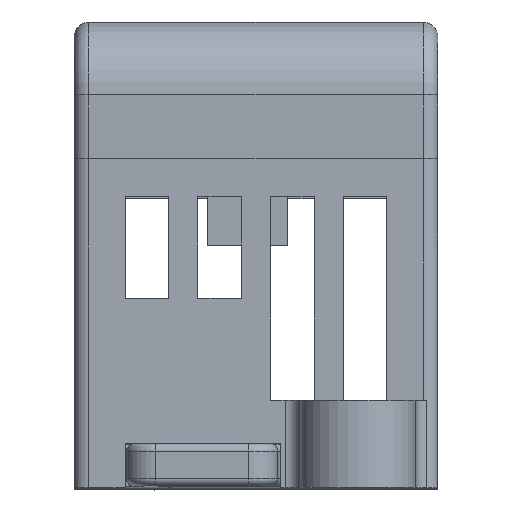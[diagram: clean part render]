
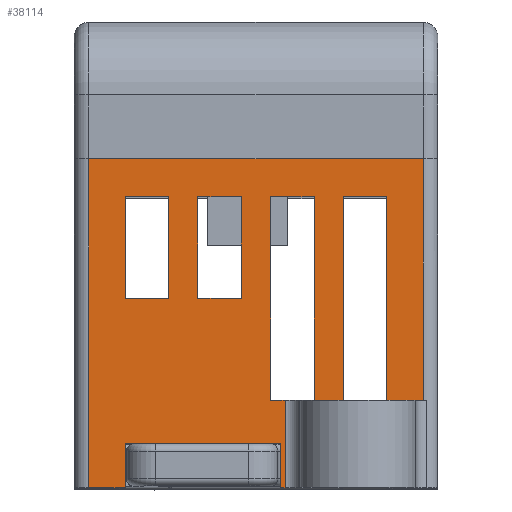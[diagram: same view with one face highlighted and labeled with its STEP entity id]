
A CAD part, top view. The second image highlights one B-rep face of the part: STEP entity #38114.
In plain terms, the highlighted planar face has unit normal (0, 0, 1).
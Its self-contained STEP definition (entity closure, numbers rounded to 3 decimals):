
#29633=DIRECTION('',(1.,0.,0.));
#29634=VECTOR('',#29633,2.5);
#29635=CARTESIAN_POINT('',(-11.5,0.,45.));
#29636=LINE('',#29635,#29634);
#29822=DIRECTION('',(0.,-1.,0.));
#29823=VECTOR('',#29822,14.);
#29824=CARTESIAN_POINT('',(1.,20.,45.));
#29825=LINE('',#29824,#29823);
#29829=DIRECTION('',(1.,0.,0.));
#29830=VECTOR('',#29829,1.);
#29831=CARTESIAN_POINT('',(1.,6.,45.));
#29832=LINE('',#29831,#29830);
#29836=DIRECTION('',(0.,-1.,0.));
#29837=VECTOR('',#29836,6.);
#29838=CARTESIAN_POINT('',(2.,6.,45.));
#29839=LINE('',#29838,#29837);
#29843=DIRECTION('',(-1.,0.,0.));
#29844=VECTOR('',#29843,0.3);
#29845=CARTESIAN_POINT('',(2.,0.,45.));
#29846=LINE('',#29845,#29844);
#29850=DIRECTION('',(1.,0.,0.));
#29851=VECTOR('',#29850,10.7);
#29852=CARTESIAN_POINT('',(-9.,3.,45.));
#29853=LINE('',#29852,#29851);
#29857=DIRECTION('',(0.,1.,0.));
#29858=VECTOR('',#29857,3.);
#29859=CARTESIAN_POINT('',(-9.,0.,45.));
#29860=LINE('',#29859,#29858);
#29864=DIRECTION('',(1.,0.,0.));
#29865=VECTOR('',#29864,23.);
#29866=CARTESIAN_POINT('',(-11.5,22.6,45.));
#29867=LINE('',#29866,#29865);
#29871=DIRECTION('',(0.,1.,0.));
#29872=VECTOR('',#29871,14.);
#29873=CARTESIAN_POINT('',(9.,6.,45.));
#29874=LINE('',#29873,#29872);
#29878=DIRECTION('',(-1.,0.,0.));
#29879=VECTOR('',#29878,3.);
#29880=CARTESIAN_POINT('',(9.,20.,45.));
#29881=LINE('',#29880,#29879);
#29885=DIRECTION('',(0.,-1.,0.));
#29886=VECTOR('',#29885,14.);
#29887=CARTESIAN_POINT('',(6.,20.,45.));
#29888=LINE('',#29887,#29886);
#29892=DIRECTION('',(0.,1.,0.));
#29893=VECTOR('',#29892,14.);
#29894=CARTESIAN_POINT('',(4.,6.,45.));
#29895=LINE('',#29894,#29893);
#29899=DIRECTION('',(-1.,0.,0.));
#29900=VECTOR('',#29899,3.);
#29901=CARTESIAN_POINT('',(4.,20.,45.));
#29902=LINE('',#29901,#29900);
#29906=DIRECTION('',(-1.,0.,0.));
#29907=VECTOR('',#29906,3.);
#29908=CARTESIAN_POINT('',(-1.,20.,45.));
#29909=LINE('',#29908,#29907);
#29913=DIRECTION('',(0.,-1.,0.));
#29914=VECTOR('',#29913,7.);
#29915=CARTESIAN_POINT('',(-4.,20.,45.));
#29916=LINE('',#29915,#29914);
#29920=DIRECTION('',(1.,0.,0.));
#29921=VECTOR('',#29920,3.);
#29922=CARTESIAN_POINT('',(-4.,13.,45.));
#29923=LINE('',#29922,#29921);
#29927=DIRECTION('',(0.,1.,0.));
#29928=VECTOR('',#29927,7.);
#29929=CARTESIAN_POINT('',(-1.,13.,45.));
#29930=LINE('',#29929,#29928);
#29934=DIRECTION('',(-1.,0.,0.));
#29935=VECTOR('',#29934,3.);
#29936=CARTESIAN_POINT('',(-6.,20.,45.));
#29937=LINE('',#29936,#29935);
#29941=DIRECTION('',(0.,-1.,0.));
#29942=VECTOR('',#29941,7.);
#29943=CARTESIAN_POINT('',(-9.,20.,45.));
#29944=LINE('',#29943,#29942);
#29948=DIRECTION('',(1.,0.,0.));
#29949=VECTOR('',#29948,3.);
#29950=CARTESIAN_POINT('',(-9.,13.,45.));
#29951=LINE('',#29950,#29949);
#29955=DIRECTION('',(0.,1.,0.));
#29956=VECTOR('',#29955,7.);
#29957=CARTESIAN_POINT('',(-6.,13.,45.));
#29958=LINE('',#29957,#29956);
#30079=DIRECTION('',(1.,0.,0.));
#30080=VECTOR('',#30079,2.);
#30081=CARTESIAN_POINT('',(4.,6.,45.));
#30082=LINE('',#30081,#30080);
#30093=DIRECTION('',(1.,0.,0.));
#30094=VECTOR('',#30093,2.5);
#30095=CARTESIAN_POINT('',(9.,6.,45.));
#30096=LINE('',#30095,#30094);
#34790=DIRECTION('',(0.,1.,0.));
#34791=VECTOR('',#34790,3.);
#34792=CARTESIAN_POINT('',(1.7,0.,45.));
#34793=LINE('',#34792,#34791);
#36309=DIRECTION('',(0.,-1.,0.));
#36310=VECTOR('',#36309,16.6);
#36311=CARTESIAN_POINT('',(11.5,22.6,45.));
#36312=LINE('',#36311,#36310);
#36586=DIRECTION('',(0.,-1.,0.));
#36587=VECTOR('',#36586,22.6);
#36588=CARTESIAN_POINT('',(-11.5,22.6,45.));
#36589=LINE('',#36588,#36587);
#36644=CARTESIAN_POINT('',(-11.5,0.,45.));
#36646=VERTEX_POINT('',#36644);
#36664=CARTESIAN_POINT('',(-9.,0.,45.));
#36665=VERTEX_POINT('',#36664);
#36936=CARTESIAN_POINT('',(-11.5,22.6,45.));
#36937=CARTESIAN_POINT('',(11.5,22.6,45.));
#36938=VERTEX_POINT('',#36936);
#36939=VERTEX_POINT('',#36937);
#37435=CARTESIAN_POINT('',(11.5,6.,45.));
#37436=VERTEX_POINT('',#37435);
#37439=CARTESIAN_POINT('',(2.,0.,45.));
#37440=VERTEX_POINT('',#37439);
#37445=CARTESIAN_POINT('',(1.7,0.,45.));
#37446=CARTESIAN_POINT('',(1.7,3.,45.));
#37447=VERTEX_POINT('',#37445);
#37448=VERTEX_POINT('',#37446);
#37449=CARTESIAN_POINT('',(-9.,3.,45.));
#37450=VERTEX_POINT('',#37449);
#37732=CARTESIAN_POINT('',(1.,20.,45.));
#37733=CARTESIAN_POINT('',(1.,6.,45.));
#37734=VERTEX_POINT('',#37732);
#37735=VERTEX_POINT('',#37733);
#37736=CARTESIAN_POINT('',(2.,6.,45.));
#37737=VERTEX_POINT('',#37736);
#37738=CARTESIAN_POINT('',(4.,6.,45.));
#37739=CARTESIAN_POINT('',(4.,20.,45.));
#37740=VERTEX_POINT('',#37738);
#37741=VERTEX_POINT('',#37739);
#37742=CARTESIAN_POINT('',(6.,20.,45.));
#37743=CARTESIAN_POINT('',(6.,6.,45.));
#37744=VERTEX_POINT('',#37742);
#37745=VERTEX_POINT('',#37743);
#37746=CARTESIAN_POINT('',(9.,6.,45.));
#37747=CARTESIAN_POINT('',(9.,20.,45.));
#37748=VERTEX_POINT('',#37746);
#37749=VERTEX_POINT('',#37747);
#37750=CARTESIAN_POINT('',(-1.,20.,45.));
#37751=CARTESIAN_POINT('',(-4.,20.,45.));
#37752=VERTEX_POINT('',#37750);
#37753=VERTEX_POINT('',#37751);
#37754=CARTESIAN_POINT('',(-4.,13.,45.));
#37755=VERTEX_POINT('',#37754);
#37756=CARTESIAN_POINT('',(-1.,13.,45.));
#37757=VERTEX_POINT('',#37756);
#37758=CARTESIAN_POINT('',(-6.,20.,45.));
#37759=CARTESIAN_POINT('',(-9.,20.,45.));
#37760=VERTEX_POINT('',#37758);
#37761=VERTEX_POINT('',#37759);
#37762=CARTESIAN_POINT('',(-9.,13.,45.));
#37763=VERTEX_POINT('',#37762);
#37764=CARTESIAN_POINT('',(-6.,13.,45.));
#37765=VERTEX_POINT('',#37764);
#38054=CARTESIAN_POINT('',(-12.5,0.,45.));
#38055=DIRECTION('',(0.,0.,1.));
#38056=DIRECTION('',(1.,0.,0.));
#38057=AXIS2_PLACEMENT_3D('',#38054,#38055,#38056);
#38058=PLANE('',#38057);
#38060=ORIENTED_EDGE('',*,*,#38059,.T.);
#38062=ORIENTED_EDGE('',*,*,#38061,.T.);
#38064=ORIENTED_EDGE('',*,*,#38063,.T.);
#38065=ORIENTED_EDGE('',*,*,#37971,.T.);
#38067=ORIENTED_EDGE('',*,*,#38066,.T.);
#38069=ORIENTED_EDGE('',*,*,#38068,.F.);
#38070=ORIENTED_EDGE('',*,*,#38043,.F.);
#38071=ORIENTED_EDGE('',*,*,#37885,.F.);
#38073=ORIENTED_EDGE('',*,*,#38072,.F.);
#38075=ORIENTED_EDGE('',*,*,#38074,.T.);
#38077=ORIENTED_EDGE('',*,*,#38076,.T.);
#38079=ORIENTED_EDGE('',*,*,#38078,.F.);
#38081=ORIENTED_EDGE('',*,*,#38080,.T.);
#38083=ORIENTED_EDGE('',*,*,#38082,.T.);
#38085=ORIENTED_EDGE('',*,*,#38084,.T.);
#38087=ORIENTED_EDGE('',*,*,#38086,.F.);
#38089=ORIENTED_EDGE('',*,*,#38088,.T.);
#38091=ORIENTED_EDGE('',*,*,#38090,.T.);
#38092=EDGE_LOOP('',(#38060,#38062,#38064,#38065,#38067,#38069,#38070,#38071,
#38073,#38075,#38077,#38079,#38081,#38083,#38085,#38087,#38089,#38091));
#38093=FACE_OUTER_BOUND('',#38092,.F.);
#38095=ORIENTED_EDGE('',*,*,#38094,.T.);
#38097=ORIENTED_EDGE('',*,*,#38096,.T.);
#38099=ORIENTED_EDGE('',*,*,#38098,.T.);
#38101=ORIENTED_EDGE('',*,*,#38100,.T.);
#38102=EDGE_LOOP('',(#38095,#38097,#38099,#38101));
#38103=FACE_BOUND('',#38102,.F.);
#38105=ORIENTED_EDGE('',*,*,#38104,.T.);
#38107=ORIENTED_EDGE('',*,*,#38106,.T.);
#38109=ORIENTED_EDGE('',*,*,#38108,.T.);
#38111=ORIENTED_EDGE('',*,*,#38110,.T.);
#38112=EDGE_LOOP('',(#38105,#38107,#38109,#38111));
#38113=FACE_BOUND('',#38112,.F.);
#38114=ADVANCED_FACE('',(#38093,#38103,#38113),#38058,.T.);
#37885=EDGE_CURVE('',#36646,#36665,#29636,.T.);
#37971=EDGE_CURVE('',#37440,#37447,#29846,.T.);
#38043=EDGE_CURVE('',#36665,#37450,#29860,.T.);
#38059=EDGE_CURVE('',#37734,#37735,#29825,.T.);
#38061=EDGE_CURVE('',#37735,#37737,#29832,.T.);
#38063=EDGE_CURVE('',#37737,#37440,#29839,.T.);
#38066=EDGE_CURVE('',#37447,#37448,#34793,.T.);
#38068=EDGE_CURVE('',#37450,#37448,#29853,.T.);
#38072=EDGE_CURVE('',#36938,#36646,#36589,.T.);
#38074=EDGE_CURVE('',#36938,#36939,#29867,.T.);
#38076=EDGE_CURVE('',#36939,#37436,#36312,.T.);
#38078=EDGE_CURVE('',#37748,#37436,#30096,.T.);
#38080=EDGE_CURVE('',#37748,#37749,#29874,.T.);
#38082=EDGE_CURVE('',#37749,#37744,#29881,.T.);
#38084=EDGE_CURVE('',#37744,#37745,#29888,.T.);
#38086=EDGE_CURVE('',#37740,#37745,#30082,.T.);
#38088=EDGE_CURVE('',#37740,#37741,#29895,.T.);
#38090=EDGE_CURVE('',#37741,#37734,#29902,.T.);
#38094=EDGE_CURVE('',#37752,#37753,#29909,.T.);
#38096=EDGE_CURVE('',#37753,#37755,#29916,.T.);
#38098=EDGE_CURVE('',#37755,#37757,#29923,.T.);
#38100=EDGE_CURVE('',#37757,#37752,#29930,.T.);
#38104=EDGE_CURVE('',#37760,#37761,#29937,.T.);
#38106=EDGE_CURVE('',#37761,#37763,#29944,.T.);
#38108=EDGE_CURVE('',#37763,#37765,#29951,.T.);
#38110=EDGE_CURVE('',#37765,#37760,#29958,.T.);
